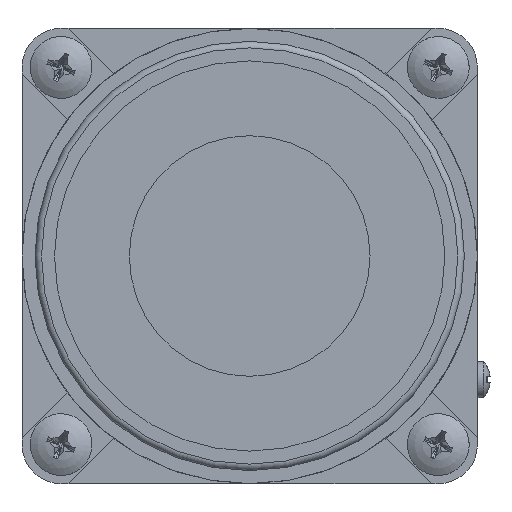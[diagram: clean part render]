
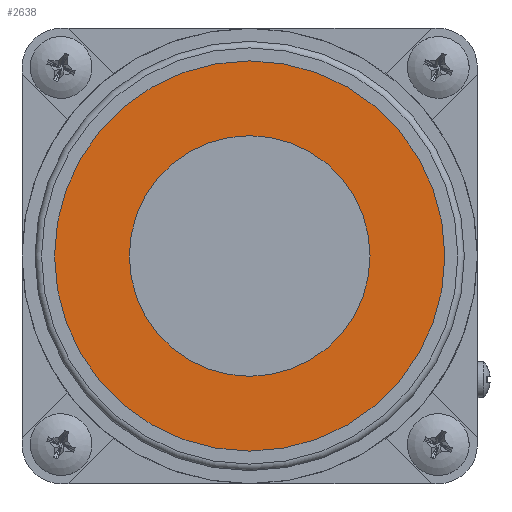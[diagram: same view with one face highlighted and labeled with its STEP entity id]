
A CAD part, left-side view. The second image highlights one B-rep face of the part: STEP entity #2638.
In plain terms, the highlighted planar face has unit normal (-1, 0, 0).
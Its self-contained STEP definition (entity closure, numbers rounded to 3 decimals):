
#2266=PLANE('',#7541);
#2638=ADVANCED_FACE('',(#2985,#2986),#2266,.T.);
#2985=FACE_BOUND('',#3475,.T.);
#2986=FACE_BOUND('',#3476,.T.);
#3475=EDGE_LOOP('',(#4918));
#3476=EDGE_LOOP('',(#4919));
#4918=ORIENTED_EDGE('',*,*,#6413,.F.);
#4919=ORIENTED_EDGE('',*,*,#6412,.F.);
#5645=VERTEX_POINT('',#12062);
#5646=VERTEX_POINT('',#12065);
#6412=EDGE_CURVE('',#5645,#5645,#6784,.T.);
#6413=EDGE_CURVE('',#5646,#5646,#6785,.T.);
#6784=CIRCLE('',#7538,30.);
#6785=CIRCLE('',#7540,18.5);
#7538=AXIS2_PLACEMENT_3D('',#12061,#8770,#8771);
#7540=AXIS2_PLACEMENT_3D('',#12064,#8774,#8775);
#7541=AXIS2_PLACEMENT_3D('',#12066,#8776,#8777);
#8770=DIRECTION('',(1.,0.,0.));
#8771=DIRECTION('',(0.,0.,-1.));
#8774=DIRECTION('',(-1.,0.,0.));
#8775=DIRECTION('',(0.,0.,-1.));
#8776=DIRECTION('',(-1.,0.,0.));
#8777=DIRECTION('',(0.,0.,-1.));
#12061=CARTESIAN_POINT('',(-79.,0.,0.));
#12062=CARTESIAN_POINT('',(-79.,0.,-30.));
#12064=CARTESIAN_POINT('',(-79.,0.,0.));
#12065=CARTESIAN_POINT('',(-79.,0.,-18.5));
#12066=CARTESIAN_POINT('',(-79.,0.,0.));
